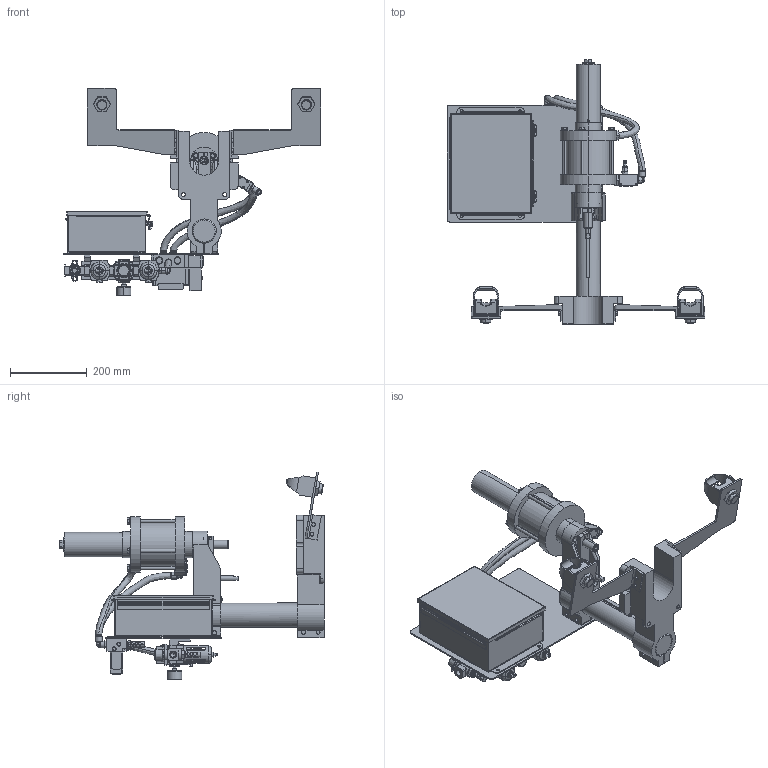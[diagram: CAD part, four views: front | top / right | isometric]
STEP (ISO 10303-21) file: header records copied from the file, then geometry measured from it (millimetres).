
FILE_DESCRIPTION (( 'STEP AP214' ), '1' );
FILE_NAME ('12-A-DS PRESS.STEP', '2024-07-29T14:18:00', ( '' ), ( '' ), 'SwSTEP 2.0', 'SolidWorks 2018', '' );
FILE_SCHEMA (( 'AUTOMOTIVE_DESIGN' ));
Length unit declared in the file: inch
Products named in the file (7): DOWNSTOP OPTION; 12A POWER SYSTEM; 12A ADJUSTABLE DOWNSTOP; 12-A-DS PRESS; 12A PRESS; 12A LOGIC SYSTEM; EDP-1 CONTROL PACKAGE
Assembly tree (6 placements, depth 3):
  12-A-DS PRESS
    EDP-1 CONTROL PACKAGE
      12A POWER SYSTEM
      12A LOGIC SYSTEM
    DOWNSTOP OPTION
      12A ADJUSTABLE DOWNSTOP
    12A PRESS
Bounding box: 673.1 x 689.52 x 542.45 mm (x, y, z)
Volume: 8258007.6 mm3; surface area: 1883655.2 mm2
Topology: 74 solids, 74 shells, 3240 faces, 8507 edges, 5415 vertices
Faces by surface type: plane 1381, cylinder 1071, cone 564, bspline 167, torus 37, sphere 20
Entity records: 173264 total; most frequent: CARTESIAN_POINT 52532, ORIENTED_EDGE 16814, DIRECTION 15141, EDGE_CURVE 8407, AXIS2_PLACEMENT_3D 5513, VERTEX_POINT 5410, VECTOR 4115, LINE 4115
